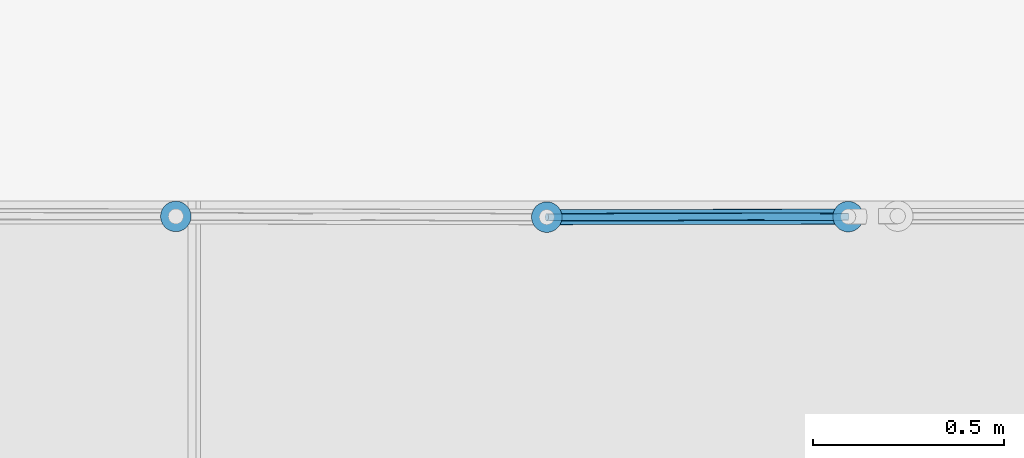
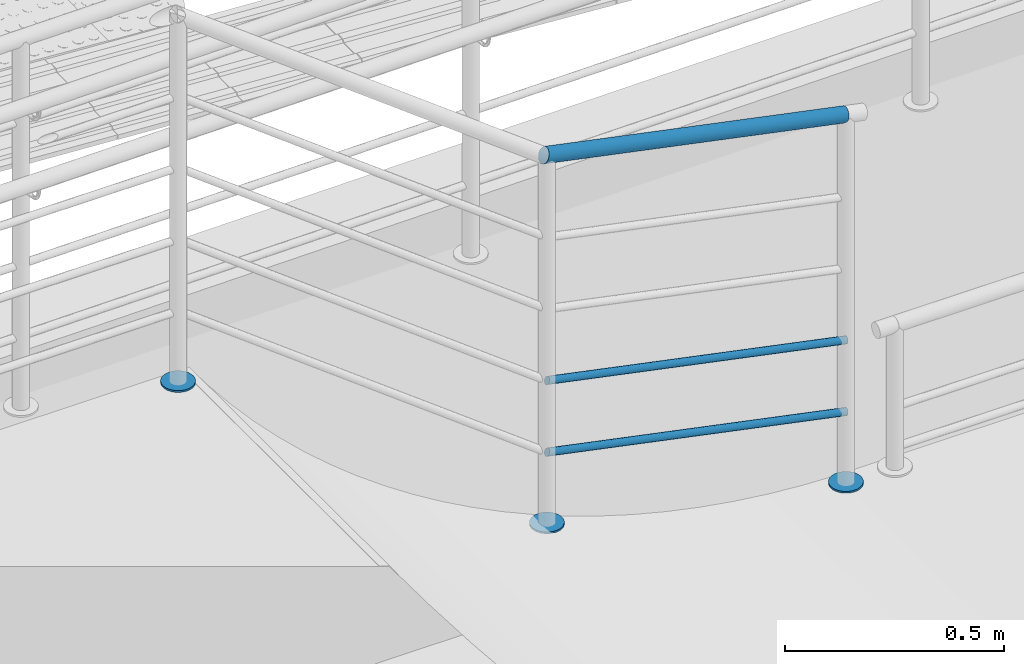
# One storey, part 96 of 237: 6 building element parts, 1 element without a shape of its own.
"""IFC2X3 building model written with IfcOpenShell, lengths in millimetres."""

from ifc_helpers import new_model, entity, si_unit, converted_unit, derived_unit, money_unit, direction, frame, origin_with_axes, place, context, subcontext, project, spatial, faceted_brep, material, type_object, element, aggregate, save


model = new_model("IFC2X3")

# Units and contexts
model_context = context("Model", 3, precision=0.01, world=origin_with_axes(), true_north=direction((0.0, 1.0)))
body_context = subcontext(model_context, "Body", "Model", "MODEL_VIEW")
ifc_project = project(units=[si_unit("LENGTHUNIT", "METRE", prefix="MILLI"), si_unit("AREAUNIT", "SQUARE_METRE"), si_unit("VOLUMEUNIT", "CUBIC_METRE"), converted_unit("PLANEANGLEUNIT", "DEGREE", entity("IfcPlaneAngleMeasure", 0.0174532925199), si_unit("PLANEANGLEUNIT", "RADIAN"), dimensions=[0, 0, 0, 0, 0, 0, 0]), money_unit("USD"), converted_unit("TIMEUNIT", "Year", entity("IfcTimeMeasure", 31556926.0), si_unit("TIMEUNIT", "SECOND"), dimensions=[0, 0, 1, 0, 0, 0, 0]), si_unit("MASSUNIT", "GRAM", prefix="KILO"), si_unit("THERMODYNAMICTEMPERATUREUNIT", "DEGREE_CELSIUS"), si_unit("LUMINOUSINTENSITYUNIT", "LUMEN"), si_unit("ENERGYUNIT", "JOULE", prefix="MEGA"), derived_unit("THERMALCONDUCTANCEUNIT", [(si_unit("POWERUNIT", "WATT"), 1), (si_unit("LENGTHUNIT", "METRE"), -1), (si_unit("THERMODYNAMICTEMPERATUREUNIT", "KELVIN"), -1)]), derived_unit("SPECIFICHEATCAPACITYUNIT", [(si_unit("ENERGYUNIT", "JOULE"), 1), (si_unit("MASSUNIT", "GRAM", prefix="KILO"), -1), (si_unit("THERMODYNAMICTEMPERATUREUNIT", "KELVIN"), -1)]), derived_unit("MASSDENSITYUNIT", [(si_unit("MASSUNIT", "GRAM", prefix="KILO"), 1), (si_unit("VOLUMEUNIT", "CUBIC_METRE"), -1)])], contexts=[model_context])

# Site, building, storey
site_placement = place(None, origin_with_axes())
site = spatial("IfcSite", under=ifc_project, at=site_placement, Name="Local", CompositionType="ELEMENT")
building_placement = place(site_placement, origin_with_axes())
building = spatial("IfcBuilding", under=site, at=building_placement, Name="Construção", CompositionType="ELEMENT")
storey_placement = place(building_placement, origin_with_axes())
storey = spatial("IfcBuildingStorey", under=building, at=storey_placement, Name="Pavimento Térreo", CompositionType="ELEMENT", Elevation=0.0)

# Railing, building element parts
railing_type = type_object("IfcRailingType", Name="Tipo de Guarda-Corpo", PredefinedType="NOTDEFINED")
railing_placement = place(storey_placement, frame((53912.4440926, 33356.4497128, -1263.04952679), z_axis=(0.0, 0.0, 1.0), x_axis=(1.0, 0.0, 0.0)))
railing = element("IfcRailing", 1, at=railing_placement, inside=storey, type_object=railing_type, Name="Guarda-Corpo - 001", PredefinedType="NOTDEFINED")
ifc_material_1 = material(Name="Alumínio")
building_element_part_1_placement = place(railing_placement, origin_with_axes())
building_element_part_1 = element("IfcBuildingElementPart", 2, at=building_element_part_1_placement, material=ifc_material_1, Name="Alumínio", context=body_context, shape_type="Brep", body=[
    faceted_brep([(-79.9317097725, 497.07230431, 8.30125024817), (-79.3121824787, 490.127423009, 8.30125024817), (-79.3121824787, 490.127423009, 13.3012502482), (-79.9317097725, 497.07230431, 13.3012502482), (-79.3358590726, 504.019257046, 8.30125024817), (-77.5427350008, 510.757201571, 8.30125024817), (-74.6068207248, 517.081408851, 8.30125024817), (-70.6173225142, 522.799721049, 8.30125024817), (-65.6954592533, 527.738390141, 8.30125024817), (-59.9907792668, 531.747357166, 8.30125024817), (-53.6766163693, 534.704811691, 8.30125024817), (-46.9448232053, 536.520892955, 8.30125024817), (-39.9999419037, 537.140420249, 8.30125024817), (-33.0529891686, 536.544569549, 8.30125024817), (-26.3150446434, 534.751445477, 8.30125024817), (-19.990837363, 531.815531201, 8.30125024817), (-14.2725251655, 527.826032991, 8.30125024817), (-9.33385607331, 522.90416973, 8.30125024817), (-5.32488904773, 517.199489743, 8.30125024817), (-2.3674345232, 510.885326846, 8.30125024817), (-0.551353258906, 504.153533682, 8.30125024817), (0.0681740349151, 497.20865238, 8.30125024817), (-0.527676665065, 490.261699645, 8.30125024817), (-2.32080073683, 483.52375512, 8.30125024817), (-5.25671501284, 477.19954784, 8.30125024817), (-9.24621322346, 471.481235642, 8.30125024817), (-14.1680764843, 466.54256655, 8.30125024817), (-19.8727564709, 462.533599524, 8.30125024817), (-26.1869193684, 459.576145, 8.30125024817), (-32.9187125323, 457.760063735, 8.30125024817), (-39.8635938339, 457.140536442, 8.30125024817), (-46.8105465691, 457.736387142, 8.30125024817), (-53.5484910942, 459.529511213, 8.30125024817), (-59.8726983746, 462.465425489, 8.30125024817), (-65.5910105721, 466.4549237, 8.30125024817), (-70.5296796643, 471.376786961, 8.30125024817), (-74.5386466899, 477.081466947, 8.30125024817), (-77.4961012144, 483.395629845, 8.30125024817), (-77.4961012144, 483.395629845, 13.3012502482), (-74.5386466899, 477.081466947, 13.3012502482), (-70.5296796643, 471.376786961, 13.3012502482), (-65.5910105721, 466.4549237, 13.3012502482), (-59.8726983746, 462.465425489, 13.3012502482), (-53.5484910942, 459.529511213, 13.3012502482), (-46.8105465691, 457.736387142, 13.3012502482), (-39.8635938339, 457.140536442, 13.3012502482), (-32.9187125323, 457.760063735, 13.3012502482), (-26.1869193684, 459.576145, 13.3012502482), (-19.8727564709, 462.533599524, 13.3012502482), (-14.1680764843, 466.54256655, 13.3012502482), (-9.24621322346, 471.481235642, 13.3012502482), (-5.25671501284, 477.19954784, 13.3012502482), (-2.32080073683, 483.52375512, 13.3012502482), (-0.527676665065, 490.261699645, 13.3012502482), (0.0681740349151, 497.20865238, 13.3012502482), (-0.551353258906, 504.153533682, 13.3012502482), (-2.3674345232, 510.885326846, 13.3012502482), (-5.32488904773, 517.199489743, 13.3012502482), (-9.33385607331, 522.90416973, 13.3012502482), (-14.2725251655, 527.826032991, 13.3012502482), (-19.990837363, 531.815531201, 13.3012502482), (-26.3150446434, 534.751445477, 13.3012502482), (-33.0529891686, 536.544569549, 13.3012502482), (-39.9999419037, 537.140420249, 13.3012502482), (-46.9448232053, 536.520892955, 13.3012502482), (-53.6766163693, 534.704811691, 13.3012502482), (-59.9907792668, 531.747357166, 13.3012502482), (-65.6954592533, 527.738390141, 13.3012502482), (-70.6173225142, 522.799721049, 13.3012502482), (-74.6068207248, 517.081408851, 13.3012502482), (-77.5427350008, 510.757201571, 13.3012502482), (-79.3358590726, 504.019257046, 13.3012502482)], [[[0, 1, 2, 3]], [[0, 4, 5, 6, 7, 8, 9, 10, 11, 12, 13, 14, 15, 16, 17, 18, 19, 20, 21, 22, 23, 24, 25, 26, 27, 28, 29, 30, 31, 32, 33, 34, 35, 36, 37, 1]], [[1, 37, 38, 2]], [[3, 2, 38, 39, 40, 41, 42, 43, 44, 45, 46, 47, 48, 49, 50, 51, 52, 53, 54, 55, 56, 57, 58, 59, 60, 61, 62, 63, 64, 65, 66, 67, 68, 69, 70, 71]], [[4, 0, 3, 71]], [[5, 4, 71, 70]], [[6, 5, 70, 69]], [[7, 6, 69, 68]], [[8, 7, 68, 67]], [[9, 8, 67, 66]], [[10, 9, 66, 65]], [[11, 10, 65, 64]], [[12, 11, 64, 63]], [[13, 12, 63, 62]], [[14, 13, 62, 61]], [[15, 14, 61, 60]], [[16, 15, 60, 59]], [[17, 16, 59, 58]], [[18, 17, 58, 57]], [[19, 18, 57, 56]], [[20, 19, 56, 55]], [[21, 20, 55, 54]], [[22, 21, 54, 53]], [[23, 22, 53, 52]], [[24, 23, 52, 51]], [[25, 24, 51, 50]], [[26, 25, 50, 49]], [[27, 26, 49, 48]], [[28, 27, 48, 47]], [[29, 28, 47, 46]], [[30, 29, 46, 45]], [[31, 30, 45, 44]], [[32, 31, 44, 43]], [[33, 32, 43, 42]], [[34, 33, 42, 41]], [[35, 34, 41, 40]], [[36, 35, 40, 39]], [[37, 36, 39, 38]]]),
])
building_element_part_2_placement = place(railing_placement, origin_with_axes())
building_element_part_2 = element("IfcBuildingElementPart", 3, at=building_element_part_2_placement, material=ifc_material_1, Name="Alumínio", context=body_context, shape_type="Brep", body=[
    faceted_brep([(-869.676964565, 495.726299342, 172.162822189), (-869.057437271, 488.78141804, 172.162822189), (-869.057437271, 488.78141804, 177.162822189), (-869.676964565, 495.726299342, 177.162822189), (-869.081113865, 502.673252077, 172.162822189), (-867.287989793, 509.411196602, 172.162822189), (-864.352075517, 515.735403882, 172.162822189), (-860.362577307, 521.45371608, 172.162822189), (-855.440714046, 526.392385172, 172.162822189), (-849.736034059, 530.401352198, 172.162822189), (-843.421871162, 533.358806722, 172.162822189), (-836.690077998, 535.174887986, 172.162822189), (-829.745196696, 535.79441528, 172.162822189), (-822.798243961, 535.19856458, 172.162822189), (-816.060299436, 533.405440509, 172.162822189), (-809.736092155, 530.469526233, 172.162822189), (-804.017779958, 526.480028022, 172.162822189), (-799.079110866, 521.558164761, 172.162822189), (-795.07014384, 515.853484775, 172.162822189), (-792.112689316, 509.539321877, 172.162822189), (-790.296608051, 502.807528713, 172.162822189), (-789.677080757, 495.862647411, 172.162822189), (-790.272931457, 488.915694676, 172.162822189), (-792.066055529, 482.177750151, 172.162822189), (-795.001969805, 475.853542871, 172.162822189), (-798.991468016, 470.135230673, 172.162822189), (-803.913331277, 465.196561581, 172.162822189), (-809.618011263, 461.187594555, 172.162822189), (-815.932174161, 458.230140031, 172.162822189), (-822.663967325, 456.414058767, 172.162822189), (-829.608848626, 455.794531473, 172.162822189), (-836.555801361, 456.390382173, 172.162822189), (-843.293745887, 458.183506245, 172.162822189), (-849.617953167, 461.119420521, 172.162822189), (-855.336265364, 465.108918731, 172.162822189), (-860.274934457, 470.030781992, 172.162822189), (-864.283901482, 475.735461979, 172.162822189), (-867.241356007, 482.049624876, 172.162822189), (-867.241356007, 482.049624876, 177.162822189), (-864.283901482, 475.735461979, 177.162822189), (-860.274934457, 470.030781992, 177.162822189), (-855.336265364, 465.108918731, 177.162822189), (-849.617953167, 461.119420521, 177.162822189), (-843.293745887, 458.183506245, 177.162822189), (-836.555801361, 456.390382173, 177.162822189), (-829.608848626, 455.794531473, 177.162822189), (-822.663967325, 456.414058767, 177.162822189), (-815.932174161, 458.230140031, 177.162822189), (-809.618011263, 461.187594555, 177.162822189), (-803.913331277, 465.196561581, 177.162822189), (-798.991468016, 470.135230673, 177.162822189), (-795.001969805, 475.853542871, 177.162822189), (-792.066055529, 482.177750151, 177.162822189), (-790.272931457, 488.915694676, 177.162822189), (-789.677080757, 495.862647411, 177.162822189), (-790.296608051, 502.807528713, 177.162822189), (-792.112689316, 509.539321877, 177.162822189), (-795.07014384, 515.853484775, 177.162822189), (-799.079110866, 521.558164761, 177.162822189), (-804.017779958, 526.480028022, 177.162822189), (-809.736092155, 530.469526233, 177.162822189), (-816.060299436, 533.405440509, 177.162822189), (-822.798243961, 535.19856458, 177.162822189), (-829.745196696, 535.79441528, 177.162822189), (-836.690077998, 535.174887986, 177.162822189), (-843.421871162, 533.358806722, 177.162822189), (-849.736034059, 530.401352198, 177.162822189), (-855.440714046, 526.392385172, 177.162822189), (-860.362577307, 521.45371608, 177.162822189), (-864.352075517, 515.735403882, 177.162822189), (-867.287989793, 509.411196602, 177.162822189), (-869.081113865, 502.673252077, 177.162822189)], [[[0, 1, 2, 3]], [[0, 4, 5, 6, 7, 8, 9, 10, 11, 12, 13, 14, 15, 16, 17, 18, 19, 20, 21, 22, 23, 24, 25, 26, 27, 28, 29, 30, 31, 32, 33, 34, 35, 36, 37, 1]], [[1, 37, 38, 2]], [[3, 2, 38, 39, 40, 41, 42, 43, 44, 45, 46, 47, 48, 49, 50, 51, 52, 53, 54, 55, 56, 57, 58, 59, 60, 61, 62, 63, 64, 65, 66, 67, 68, 69, 70, 71]], [[4, 0, 3, 71]], [[5, 4, 71, 70]], [[6, 5, 70, 69]], [[7, 6, 69, 68]], [[8, 7, 68, 67]], [[9, 8, 67, 66]], [[10, 9, 66, 65]], [[11, 10, 65, 64]], [[12, 11, 64, 63]], [[13, 12, 63, 62]], [[14, 13, 62, 61]], [[15, 14, 61, 60]], [[16, 15, 60, 59]], [[17, 16, 59, 58]], [[18, 17, 58, 57]], [[19, 18, 57, 56]], [[20, 19, 56, 55]], [[21, 20, 55, 54]], [[22, 21, 54, 53]], [[23, 22, 53, 52]], [[24, 23, 52, 51]], [[25, 24, 51, 50]], [[26, 25, 50, 49]], [[27, 26, 49, 48]], [[28, 27, 48, 47]], [[29, 28, 47, 46]], [[30, 29, 46, 45]], [[31, 30, 45, 44]], [[32, 31, 44, 43]], [[33, 32, 43, 42]], [[34, 33, 42, 41]], [[35, 34, 41, 40]], [[36, 35, 40, 39]], [[37, 36, 39, 38]]]),
])
building_element_part_3_placement = place(railing_placement, origin_with_axes())
building_element_part_3 = element("IfcBuildingElementPart", 4, at=building_element_part_3_placement, material=ifc_material_1, Name="Alumínio", context=body_context, shape_type="Brep", body=[
    faceted_brep([(-1841.82526261, 497.802168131, 905.93185737), (-1841.23135182, 490.855049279, 905.93185737), (-1841.23135182, 490.855049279, 910.93185737), (-1841.82526261, 497.802168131, 910.93185737), (-1841.20379602, 504.746876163, 905.93185737), (-1839.38583502, 511.478161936, 905.93185737), (-1836.42661743, 517.791498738, 905.93185737), (-1832.41605756, 523.495059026, 905.93185737), (-1827.47601427, 528.415543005, 905.93185737), (-1821.75658825, 532.40344426, 905.93185737), (-1815.43156139, 535.337592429, 905.93185737), (-1808.6931164, 537.128834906, 905.93185737), (-1801.74599755, 537.722745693, 905.93185737), (-1794.80128952, 537.101279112, 905.93185737), (-1788.07000375, 535.283318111, 905.93185737), (-1781.75666695, 532.324100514, 905.93185737), (-1776.05310666, 528.313540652, 905.93185737), (-1771.13262268, 523.373497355, 905.93185737), (-1767.14472142, 517.65407134, 905.93185737), (-1764.21057326, 511.329044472, 905.93185737), (-1762.41933078, 504.590599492, 905.93185737), (-1761.82541999, 497.64348064, 905.93185737), (-1762.44688657, 490.698772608, 905.93185737), (-1764.26484757, 483.967486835, 905.93185737), (-1767.22406517, 477.654150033, 905.93185737), (-1771.23462503, 471.950589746, 905.93185737), (-1776.17466833, 467.030105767, 905.93185737), (-1781.89409434, 463.042204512, 905.93185737), (-1788.21912121, 460.108056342, 905.93185737), (-1794.95756619, 458.316813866, 905.93185737), (-1801.90468504, 457.722903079, 905.93185737), (-1808.84939308, 458.344369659, 905.93185737), (-1815.58067885, 460.162330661, 905.93185737), (-1821.89401565, 463.121548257, 905.93185737), (-1827.59757594, 467.13210812, 905.93185737), (-1832.51805992, 472.072151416, 905.93185737), (-1836.50596117, 477.791577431, 905.93185737), (-1839.44010934, 484.116604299, 905.93185737), (-1839.44010934, 484.116604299, 910.93185737), (-1836.50596117, 477.791577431, 910.93185737), (-1832.51805992, 472.072151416, 910.93185737), (-1827.59757594, 467.13210812, 910.93185737), (-1821.89401565, 463.121548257, 910.93185737), (-1815.58067885, 460.162330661, 910.93185737), (-1808.84939308, 458.344369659, 910.93185737), (-1801.90468504, 457.722903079, 910.93185737), (-1794.95756619, 458.316813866, 910.93185737), (-1788.21912121, 460.108056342, 910.93185737), (-1781.89409434, 463.042204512, 910.93185737), (-1776.17466833, 467.030105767, 910.93185737), (-1771.23462503, 471.950589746, 910.93185737), (-1767.22406517, 477.654150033, 910.93185737), (-1764.26484757, 483.967486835, 910.93185737), (-1762.44688657, 490.698772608, 910.93185737), (-1761.82541999, 497.64348064, 910.93185737), (-1762.41933078, 504.590599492, 910.93185737), (-1764.21057326, 511.329044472, 910.93185737), (-1767.14472142, 517.65407134, 910.93185737), (-1771.13262268, 523.373497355, 910.93185737), (-1776.05310666, 528.313540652, 910.93185737), (-1781.75666695, 532.324100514, 910.93185737), (-1788.07000375, 535.283318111, 910.93185737), (-1794.80128952, 537.101279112, 910.93185737), (-1801.74599755, 537.722745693, 910.93185737), (-1808.6931164, 537.128834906, 910.93185737), (-1815.43156139, 535.337592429, 910.93185737), (-1821.75658825, 532.40344426, 910.93185737), (-1827.47601427, 528.415543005, 910.93185737), (-1832.41605756, 523.495059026, 910.93185737), (-1836.42661743, 517.791498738, 910.93185737), (-1839.38583502, 511.478161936, 910.93185737), (-1841.20379602, 504.746876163, 910.93185737)], [[[0, 1, 2, 3]], [[0, 4, 5, 6, 7, 8, 9, 10, 11, 12, 13, 14, 15, 16, 17, 18, 19, 20, 21, 22, 23, 24, 25, 26, 27, 28, 29, 30, 31, 32, 33, 34, 35, 36, 37, 1]], [[1, 37, 38, 2]], [[3, 2, 38, 39, 40, 41, 42, 43, 44, 45, 46, 47, 48, 49, 50, 51, 52, 53, 54, 55, 56, 57, 58, 59, 60, 61, 62, 63, 64, 65, 66, 67, 68, 69, 70, 71]], [[4, 0, 3, 71]], [[5, 4, 71, 70]], [[6, 5, 70, 69]], [[7, 6, 69, 68]], [[8, 7, 68, 67]], [[9, 8, 67, 66]], [[10, 9, 66, 65]], [[11, 10, 65, 64]], [[12, 11, 64, 63]], [[13, 12, 63, 62]], [[14, 13, 62, 61]], [[15, 14, 61, 60]], [[16, 15, 60, 59]], [[17, 16, 59, 58]], [[18, 17, 58, 57]], [[19, 18, 57, 56]], [[20, 19, 56, 55]], [[21, 20, 55, 54]], [[22, 21, 54, 53]], [[23, 22, 53, 52]], [[24, 23, 52, 51]], [[25, 24, 51, 50]], [[26, 25, 50, 49]], [[27, 26, 49, 48]], [[28, 27, 48, 47]], [[29, 28, 47, 46]], [[30, 29, 46, 45]], [[31, 30, 45, 44]], [[32, 31, 44, 43]], [[33, 32, 43, 42]], [[34, 33, 42, 41]], [[35, 34, 41, 40]], [[36, 35, 40, 39]], [[37, 36, 39, 38]]]),
])
ifc_material_2 = material(Name="Aço - Inoxidável")
building_element_part_4_placement = place(railing_placement, origin_with_axes())
building_element_part_4 = element("IfcBuildingElementPart", 5, at=building_element_part_4_placement, material=ifc_material_2, Name="Aço - Inoxidável", context=body_context, shape_type="Brep", body=[
    faceted_brep([(-43.9617053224, 477.13358086, 1038.71851149), (-43.2565127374, 477.438628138, 1042.11901839), (-836.669634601, 476.097955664, 1206.77050964), (-44.6679336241, 477.436222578, 1035.3180046), (-45.3537392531, 478.337357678, 1032.02082038), (-45.9982843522, 479.809605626, 1028.92714212), (-46.5819847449, 481.808232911, 1026.13096966), (-47.08710499, 484.272512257, 1023.71726329), (-47.4982972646, 487.127567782, 1021.75936226), (-47.8030676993, 490.286650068, 1020.31675639), (-47.9921559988, 493.653771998, 1019.43327854), (-48.0598168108, 497.126625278, 1019.13577274), (-48.0039942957, 500.599689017, 1019.43327854), (-47.8263845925, 503.96743593, 1020.31675639), (-47.532384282, 507.127538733, 1021.75936226), (-47.130926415, 509.983979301, 1023.71726329), (-46.6342090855, 512.449966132, 1026.13096966), (-46.0573247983, 514.450571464, 1028.92714212), (-45.4178018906, 515.925007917, 1032.02082038), (-44.7350719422, 516.828475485, 1035.3180046), (-44.0298793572, 517.133522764, 1038.71851149), (-43.3236510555, 516.830881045, 1042.11901839), (-42.6378454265, 515.929745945, 1045.41620261), (-41.9933003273, 514.457497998, 1048.50988087), (-41.4095999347, 512.458870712, 1051.30605333), (-40.9044796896, 509.994591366, 1053.7197597), (-40.493287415, 507.139535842, 1055.67766073), (-40.1885169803, 503.980453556, 1057.1202666), (-39.9994286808, 500.613331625, 1058.00374444), (-39.9317678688, 497.140478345, 1058.30125025), (-39.9875903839, 493.667414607, 1058.00374444), (-40.1652000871, 490.299667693, 1057.1202666), (-40.4592003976, 487.13956489, 1055.67766073), (-40.8606582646, 484.283124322, 1053.7197597), (-41.3573755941, 481.817137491, 1051.30605333), (-41.9342598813, 479.816532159, 1048.50988087), (-42.573782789, 478.342095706, 1045.41620261), (-835.244716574, 477.000328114, 1209.91397653), (-838.139234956, 475.794039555, 1203.52853705), (-839.608864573, 476.097814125, 1200.28656446), (-841.033869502, 477.000049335, 1197.14309757), (-842.370951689, 478.473331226, 1194.19364903), (-843.579484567, 480.472894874, 1191.52783633), (-844.622747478, 482.937984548, 1189.22665885), (-845.469041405, 485.793699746, 1187.36003671), (-846.092652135, 488.953271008, 1185.98468626), (-846.474631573, 492.320696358, 1185.14239685), (-846.603373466, 495.793658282, 1184.858761), (-846.474966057, 499.26663259, 1185.14239685), (-846.09331094, 502.634094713, 1185.98468626), (-845.470004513, 505.79372602, 1187.36003671), (-844.623985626, 508.649522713, 1189.22665885), (-843.580960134, 511.114712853, 1191.52783633), (-842.372619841, 513.114392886, 1194.19364903), (-841.035679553, 514.587803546, 1197.14309757), (-839.610761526, 515.490175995, 1200.28656446), (-838.141161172, 515.794092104, 1203.52853705), (-836.671531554, 515.490317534, 1206.77050964), (-835.246526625, 514.588082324, 1209.91397653), (-833.909444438, 513.114800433, 1212.86342508), (-832.70091156, 511.115236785, 1215.52923777), (-831.657648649, 508.650147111, 1217.83041525), (-830.811354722, 505.794431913, 1219.69703739), (-830.187743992, 502.634860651, 1221.07238784), (-829.805764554, 499.267435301, 1221.91467725), (-829.677022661, 495.794473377, 1222.1983131), (-829.80543007, 492.321499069, 1221.91467725), (-830.187085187, 488.954036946, 1221.07238784), (-830.810391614, 485.794405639, 1219.69703739), (-831.656410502, 482.938608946, 1217.83041525), (-832.699435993, 480.473418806, 1215.52923777), (-833.907776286, 478.473738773, 1212.86342508)], [[[0, 1, 2]], [[0, 3, 4, 5, 6, 7, 8, 9, 10, 11, 12, 13, 14, 15, 16, 17, 18, 19, 20, 21, 22, 23, 24, 25, 26, 27, 28, 29, 30, 31, 32, 33, 34, 35, 36, 1]], [[1, 37, 2]], [[0, 2, 38]], [[3, 0, 38]], [[4, 3, 39]], [[5, 4, 40]], [[6, 5, 41]], [[7, 6, 42]], [[8, 7, 43]], [[9, 8, 44]], [[10, 9, 45]], [[11, 10, 46]], [[12, 11, 47]], [[13, 12, 48]], [[14, 13, 49]], [[15, 14, 50]], [[16, 15, 51]], [[17, 16, 52]], [[18, 17, 53]], [[19, 18, 54]], [[20, 19, 55]], [[21, 20, 56]], [[22, 21, 57]], [[23, 22, 58]], [[24, 23, 59]], [[25, 24, 60]], [[26, 25, 61]], [[27, 26, 62]], [[28, 27, 63]], [[29, 28, 64]], [[30, 29, 65]], [[31, 30, 66]], [[32, 31, 67]], [[33, 32, 68]], [[34, 33, 69]], [[35, 34, 70]], [[36, 35, 71]], [[1, 36, 37]], [[38, 2, 37, 71, 70, 69, 68, 67, 66, 65, 64, 63, 62, 61, 60, 59, 58, 57, 56, 55, 54, 53, 52, 51, 50, 49, 48, 47, 46, 45, 44, 43, 42, 41, 40, 39]], [[3, 38, 39]], [[4, 39, 40]], [[5, 40, 41]], [[6, 41, 42]], [[7, 42, 43]], [[8, 43, 44]], [[9, 44, 45]], [[10, 45, 46]], [[11, 46, 47]], [[12, 47, 48]], [[13, 48, 49]], [[14, 49, 50]], [[15, 50, 51]], [[16, 51, 52]], [[17, 52, 53]], [[18, 53, 54]], [[19, 54, 55]], [[20, 55, 56]], [[21, 56, 57]], [[22, 57, 58]], [[23, 58, 59]], [[24, 59, 60]], [[25, 60, 61]], [[26, 61, 62]], [[27, 62, 63]], [[28, 63, 64]], [[29, 64, 65]], [[30, 65, 66]], [[31, 66, 67]], [[32, 67, 68]], [[33, 68, 69]], [[34, 69, 70]], [[35, 70, 71]], [[36, 71, 37]]]),
])
building_element_part_5_placement = place(railing_placement, origin_with_axes())
building_element_part_5 = element("IfcBuildingElementPart", 6, at=building_element_part_5_placement, material=ifc_material_2, Name="Aço - Inoxidável", context=body_context, shape_type="Brep", body=[
    faceted_brep([(-39.9147243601, 487.140492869, 208.301250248), (-39.5621280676, 487.293016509, 210.001503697), (-828.94174093, 485.946418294, 373.819299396), (-40.267838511, 487.291813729, 206.600996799), (-40.6107413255, 487.742381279, 204.95240469), (-40.933013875, 488.478505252, 203.40556556), (-41.2248640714, 489.477818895, 202.007479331), (-41.4774241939, 490.709958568, 200.800626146), (-41.6830203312, 492.13748633, 199.82167563), (-41.8354055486, 493.717027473, 199.100372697), (-41.9299496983, 495.400588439, 198.658633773), (-41.9637801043, 497.137015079, 198.509880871), (-41.9358688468, 498.873546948, 198.658633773), (-41.8470639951, 500.557420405, 199.100372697), (-41.7000638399, 502.137471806, 199.82167563), (-41.4993349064, 503.56569209, 200.800626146), (-41.2509762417, 504.798685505, 202.007479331), (-40.9625340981, 505.798988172, 203.40556556), (-40.6427726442, 506.536206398, 204.95240469), (-40.30140767, 506.987940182, 206.600996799), (-39.9488113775, 507.140463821, 208.301250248), (-39.5956972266, 506.989142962, 210.001503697), (-39.2527944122, 506.538575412, 211.650095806), (-38.9305218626, 505.802451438, 213.196934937), (-38.6386716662, 504.803137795, 214.595021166), (-38.3861115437, 503.570998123, 215.80187435), (-38.1805154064, 502.14347036, 216.780824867), (-38.0281301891, 500.563929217, 217.502127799), (-37.9335860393, 498.880368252, 217.943866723), (-37.8997556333, 497.143941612, 218.092619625), (-37.9276668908, 495.407409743, 217.943866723), (-38.0164717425, 493.723536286, 217.502127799), (-38.1634718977, 492.143484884, 216.780824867), (-38.3642008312, 490.715264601, 215.80187435), (-38.612559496, 489.482271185, 214.595021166), (-38.9010016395, 488.481968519, 213.196934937), (-39.2207630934, 487.744750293, 211.650095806), (-828.229281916, 486.397604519, 375.391032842), (-829.676541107, 485.79446024, 372.198313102), (-830.411355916, 485.946347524, 370.577326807), (-831.12385838, 486.397465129, 369.005593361), (-831.792399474, 487.134106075, 367.530869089), (-832.396665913, 488.133887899, 366.197962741), (-832.918297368, 489.366432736, 365.047374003), (-833.341444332, 490.794290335, 364.11406293), (-833.653249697, 492.374075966, 363.426387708), (-833.844239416, 494.057788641, 363.005243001), (-833.908610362, 495.794269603, 362.863425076), (-833.844406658, 497.530756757, 363.005243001), (-833.653579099, 499.214487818, 363.426387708), (-833.341925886, 500.794303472, 364.11406293), (-832.918916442, 502.222201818, 365.047374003), (-832.397403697, 503.454796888, 366.197962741), (-831.79323355, 504.454636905, 367.530869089), (-831.124763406, 505.191342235, 369.005593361), (-830.412304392, 505.642528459, 370.577326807), (-829.677504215, 505.794486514, 372.198313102), (-828.942689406, 505.642599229, 373.819299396), (-828.230186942, 505.191481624, 375.391032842), (-827.561645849, 504.454840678, 376.865757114), (-826.957379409, 503.455058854, 378.198663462), (-826.435747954, 502.222514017, 379.349252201), (-826.012600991, 500.794656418, 380.282563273), (-825.700795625, 499.214870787, 380.970238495), (-825.509805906, 497.531158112, 381.391383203), (-825.44543496, 495.79467715, 381.533201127), (-825.509638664, 494.058189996, 381.391383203), (-825.700466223, 492.374458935, 380.970238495), (-826.012119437, 490.794643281, 380.282563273), (-826.43512888, 489.366744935, 379.349252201), (-826.956641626, 488.134149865, 378.198663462), (-827.560811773, 487.134309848, 376.865757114)], [[[0, 1, 2]], [[0, 3, 4, 5, 6, 7, 8, 9, 10, 11, 12, 13, 14, 15, 16, 17, 18, 19, 20, 21, 22, 23, 24, 25, 26, 27, 28, 29, 30, 31, 32, 33, 34, 35, 36, 1]], [[1, 37, 2]], [[0, 2, 38]], [[3, 0, 38]], [[4, 3, 39]], [[5, 4, 40]], [[6, 5, 41]], [[7, 6, 42]], [[8, 7, 43]], [[9, 8, 44]], [[10, 9, 45]], [[11, 10, 46]], [[12, 11, 47]], [[13, 12, 48]], [[14, 13, 49]], [[15, 14, 50]], [[16, 15, 51]], [[17, 16, 52]], [[18, 17, 53]], [[19, 18, 54]], [[20, 19, 55]], [[21, 20, 56]], [[22, 21, 57]], [[23, 22, 58]], [[24, 23, 59]], [[25, 24, 60]], [[26, 25, 61]], [[27, 26, 62]], [[28, 27, 63]], [[29, 28, 64]], [[30, 29, 65]], [[31, 30, 66]], [[32, 31, 67]], [[33, 32, 68]], [[34, 33, 69]], [[35, 34, 70]], [[36, 35, 71]], [[1, 36, 37]], [[38, 2, 37, 71, 70, 69, 68, 67, 66, 65, 64, 63, 62, 61, 60, 59, 58, 57, 56, 55, 54, 53, 52, 51, 50, 49, 48, 47, 46, 45, 44, 43, 42, 41, 40, 39]], [[3, 38, 39]], [[4, 39, 40]], [[5, 40, 41]], [[6, 41, 42]], [[7, 42, 43]], [[8, 43, 44]], [[9, 44, 45]], [[10, 45, 46]], [[11, 46, 47]], [[12, 47, 48]], [[13, 48, 49]], [[14, 49, 50]], [[15, 50, 51]], [[16, 51, 52]], [[17, 52, 53]], [[18, 53, 54]], [[19, 54, 55]], [[20, 55, 56]], [[21, 56, 57]], [[22, 57, 58]], [[23, 58, 59]], [[24, 59, 60]], [[25, 60, 61]], [[26, 61, 62]], [[27, 62, 63]], [[28, 63, 64]], [[29, 64, 65]], [[30, 65, 66]], [[31, 66, 67]], [[32, 67, 68]], [[33, 68, 69]], [[34, 69, 70]], [[35, 70, 71]], [[36, 71, 37]]]),
])
building_element_part_6_placement = place(railing_placement, origin_with_axes())
building_element_part_6 = element("IfcBuildingElementPart", 7, at=building_element_part_6_placement, material=ifc_material_2, Name="Aço - Inoxidável", context=body_context, shape_type="Brep", body=[
    faceted_brep([(-39.9147243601, 487.140492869, 408.301250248), (-39.5621280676, 487.293016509, 410.001503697), (-828.94174093, 485.946418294, 573.819299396), (-40.267838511, 487.291813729, 406.600996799), (-40.6107413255, 487.742381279, 404.95240469), (-40.933013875, 488.478505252, 403.40556556), (-41.2248640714, 489.477818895, 402.007479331), (-41.4774241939, 490.709958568, 400.800626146), (-41.6830203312, 492.13748633, 399.82167563), (-41.8354055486, 493.717027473, 399.100372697), (-41.9299496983, 495.400588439, 398.658633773), (-41.9637801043, 497.137015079, 398.509880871), (-41.9358688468, 498.873546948, 398.658633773), (-41.8470639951, 500.557420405, 399.100372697), (-41.7000638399, 502.137471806, 399.82167563), (-41.4993349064, 503.56569209, 400.800626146), (-41.2509762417, 504.798685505, 402.007479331), (-40.9625340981, 505.798988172, 403.40556556), (-40.6427726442, 506.536206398, 404.95240469), (-40.30140767, 506.987940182, 406.600996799), (-39.9488113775, 507.140463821, 408.301250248), (-39.5956972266, 506.989142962, 410.001503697), (-39.2527944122, 506.538575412, 411.650095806), (-38.9305218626, 505.802451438, 413.196934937), (-38.6386716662, 504.803137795, 414.595021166), (-38.3861115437, 503.570998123, 415.80187435), (-38.1805154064, 502.14347036, 416.780824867), (-38.0281301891, 500.563929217, 417.502127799), (-37.9335860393, 498.880368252, 417.943866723), (-37.8997556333, 497.143941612, 418.092619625), (-37.9276668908, 495.407409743, 417.943866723), (-38.0164717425, 493.723536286, 417.502127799), (-38.1634718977, 492.143484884, 416.780824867), (-38.3642008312, 490.715264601, 415.80187435), (-38.612559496, 489.482271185, 414.595021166), (-38.9010016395, 488.481968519, 413.196934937), (-39.2207630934, 487.744750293, 411.650095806), (-828.229281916, 486.397604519, 575.391032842), (-829.676541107, 485.79446024, 572.198313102), (-830.411355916, 485.946347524, 570.577326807), (-831.12385838, 486.397465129, 569.005593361), (-831.792399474, 487.134106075, 567.530869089), (-832.396665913, 488.133887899, 566.197962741), (-832.918297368, 489.366432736, 565.047374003), (-833.341444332, 490.794290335, 564.11406293), (-833.653249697, 492.374075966, 563.426387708), (-833.844239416, 494.057788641, 563.005243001), (-833.908610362, 495.794269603, 562.863425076), (-833.844406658, 497.530756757, 563.005243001), (-833.653579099, 499.214487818, 563.426387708), (-833.341925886, 500.794303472, 564.11406293), (-832.918916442, 502.222201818, 565.047374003), (-832.397403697, 503.454796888, 566.197962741), (-831.79323355, 504.454636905, 567.530869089), (-831.124763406, 505.191342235, 569.005593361), (-830.412304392, 505.642528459, 570.577326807), (-829.677504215, 505.794486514, 572.198313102), (-828.942689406, 505.642599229, 573.819299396), (-828.230186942, 505.191481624, 575.391032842), (-827.561645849, 504.454840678, 576.865757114), (-826.957379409, 503.455058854, 578.198663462), (-826.435747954, 502.222514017, 579.349252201), (-826.012600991, 500.794656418, 580.282563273), (-825.700795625, 499.214870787, 580.970238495), (-825.509805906, 497.531158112, 581.391383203), (-825.44543496, 495.79467715, 581.533201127), (-825.509638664, 494.058189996, 581.391383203), (-825.700466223, 492.374458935, 580.970238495), (-826.012119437, 490.794643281, 580.282563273), (-826.43512888, 489.366744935, 579.349252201), (-826.956641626, 488.134149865, 578.198663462), (-827.560811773, 487.134309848, 576.865757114)], [[[0, 1, 2]], [[0, 3, 4, 5, 6, 7, 8, 9, 10, 11, 12, 13, 14, 15, 16, 17, 18, 19, 20, 21, 22, 23, 24, 25, 26, 27, 28, 29, 30, 31, 32, 33, 34, 35, 36, 1]], [[1, 37, 2]], [[0, 2, 38]], [[3, 0, 38]], [[4, 3, 39]], [[5, 4, 40]], [[6, 5, 41]], [[7, 6, 42]], [[8, 7, 43]], [[9, 8, 44]], [[10, 9, 45]], [[11, 10, 46]], [[12, 11, 47]], [[13, 12, 48]], [[14, 13, 49]], [[15, 14, 50]], [[16, 15, 51]], [[17, 16, 52]], [[18, 17, 53]], [[19, 18, 54]], [[20, 19, 55]], [[21, 20, 56]], [[22, 21, 57]], [[23, 22, 58]], [[24, 23, 59]], [[25, 24, 60]], [[26, 25, 61]], [[27, 26, 62]], [[28, 27, 63]], [[29, 28, 64]], [[30, 29, 65]], [[31, 30, 66]], [[32, 31, 67]], [[33, 32, 68]], [[34, 33, 69]], [[35, 34, 70]], [[36, 35, 71]], [[1, 36, 37]], [[38, 2, 37, 71, 70, 69, 68, 67, 66, 65, 64, 63, 62, 61, 60, 59, 58, 57, 56, 55, 54, 53, 52, 51, 50, 49, 48, 47, 46, 45, 44, 43, 42, 41, 40, 39]], [[3, 38, 39]], [[4, 39, 40]], [[5, 40, 41]], [[6, 41, 42]], [[7, 42, 43]], [[8, 43, 44]], [[9, 44, 45]], [[10, 45, 46]], [[11, 46, 47]], [[12, 47, 48]], [[13, 48, 49]], [[14, 49, 50]], [[15, 50, 51]], [[16, 51, 52]], [[17, 52, 53]], [[18, 53, 54]], [[19, 54, 55]], [[20, 55, 56]], [[21, 56, 57]], [[22, 57, 58]], [[23, 58, 59]], [[24, 59, 60]], [[25, 60, 61]], [[26, 61, 62]], [[27, 62, 63]], [[28, 63, 64]], [[29, 64, 65]], [[30, 65, 66]], [[31, 66, 67]], [[32, 67, 68]], [[33, 68, 69]], [[34, 69, 70]], [[35, 70, 71]], [[36, 71, 37]]]),
])
aggregate(railing, [building_element_part_1, building_element_part_2, building_element_part_3, building_element_part_4, building_element_part_5, building_element_part_6])

save(model, "model.ifc")
